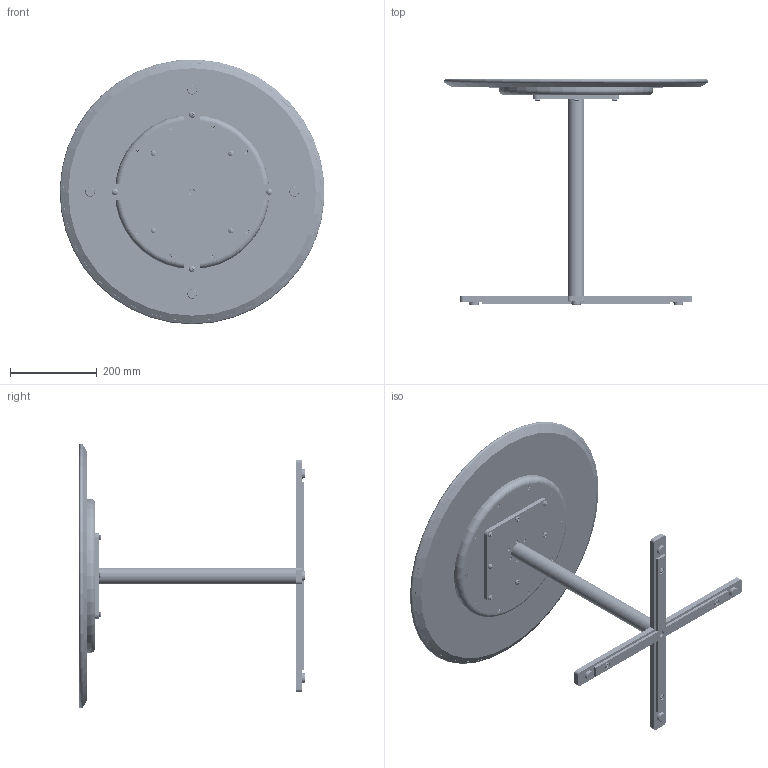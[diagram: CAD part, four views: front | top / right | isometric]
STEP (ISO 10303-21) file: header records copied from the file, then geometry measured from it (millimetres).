
FILE_DESCRIPTION(/* description */ ('CAPRI SIDE TABLE, 24'''' DIA X 20.5''''H '),/* implementation_level */ '2;1');
FILE_NAME(/* name */ '3133.stp',/* time_stamp */ '2025-07-03T13:02:41-04:00',/* author */ ('emendoza'),/* organization */ (''),/* preprocessor_version */ 'ST-DEVELOPER v20',/* originating_system */ 'Autodesk Inventor 2025',/* authorisation */ '');
FILE_SCHEMA (('AUTOMOTIVE_DESIGN { 1 0 10303 214 3 1 1 }'));
Products named in the file (39): 3133; 3133-010; 3133-011; 3133-011_1; 3133-012; 3133-013; HD01-036; HD01-213; 3138-019; 3133-014; 3133-014_1; 3133-015; 3133-016; 3133-016_1; 3133-020; 3133-020_1; 3133-017; 3133-018 ; PA230; MEFA311; 3133-021; FA01-003; 3133-030 ; 3132-031; FA151; 3133-040; 3133-041 ; 3133-042; 3133-044; 3133-045; 3133-046; 3133-047; 3133-043; 3133-043_1; 3133-043_2; 3133-043_3; 3133-043_4; FA012; 95170-OS
Assembly tree (76 placements, depth 6):
  3133
    3133-010
      3133-011
        3133-011_1
        3133-012
        3133-013  x2
        HD01-036  x8
        HD01-213
      3138-019
      3133-014
        3133-014_1
        3133-015
        3133-016
        3133-016_1
      3133-020
        3133-020_1
        3133-017
        3133-018   x2
      PA230  x4
      MEFA311
      3133-021
      FA01-003  x4
    3133-030 
      3132-031
      FA151  x8
    3133-040
      3133-041 
        3133-042
          3133-044
            3133-045
            3133-046
            3133-047
          3133-043
          3133-043_1
          3133-043_2
          3133-043_3
          3133-043_4
    FA012  x10
    95170-OS  x8
Bounding box: 608.87 x 519.91 x 609.31 mm (x, y, z)
Volume: 8155671.9 mm3; surface area: 2386850.5 mm2
Topology: 94 solids, 94 shells, 2717 faces, 7310 edges, 4853 vertices
Faces by surface type: cylinder 1306, plane 935, cone 271, bspline 125, torus 68, sphere 12
Full cylindrical faces by diameter (mm): 2.812 x90, 3.489 x10, 4.166 x90, 4.7 x248, 4.711 x20, 4.762 x10, 6.35 x288, 7.144 x18, 7.747 x16, 7.938 x16, 8.433 x10, 10.162 x3, 11.112 x4, 12.497 x8, 12.7 x10, 13.494 x3, 14.287 x1, 14.554 x4, 15.088 x1, 15.875 x5, 19.05 x8, 19.844 x8, 22.225 x4, 31.75 x1, 33.337 x1, 34.798 x1, 38.1 x1, 76.2 x1, 355.6 x1, 584.2 x1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
Entity records: 39600 total; most frequent: CARTESIAN_POINT 20847, DIRECTION 3618, ORIENTED_EDGE 3558, EDGE_CURVE 1779, AXIS2_PLACEMENT_3D 1406, VERTEX_POINT 1176, EDGE_LOOP 861, LINE 806
